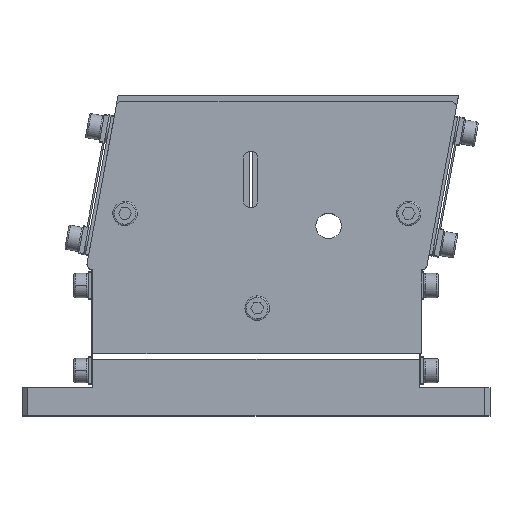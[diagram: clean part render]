
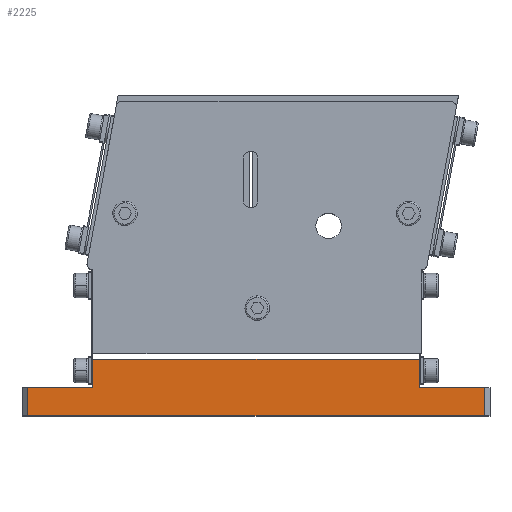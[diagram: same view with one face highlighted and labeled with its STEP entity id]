
A CAD part, top view. The second image highlights one B-rep face of the part: STEP entity #2225.
In plain terms, the highlighted planar face has unit normal (0, 0, 1).
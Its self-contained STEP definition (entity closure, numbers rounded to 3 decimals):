
#564 = DIRECTION ( 'NONE',  ( 0., 1., 0. ) ) ;
#878 = EDGE_CURVE ( 'NONE', #5041, #23762, #21860, .T. ) ;
#1312 = VERTEX_POINT ( 'NONE', #25003 ) ;
#1365 = CARTESIAN_POINT ( 'NONE',  ( -324.65, -35.022, 25. ) ) ;
#1494 = DIRECTION ( 'NONE',  ( 1., 0., 0. ) ) ;
#1765 = EDGE_LOOP ( 'NONE', ( #19718, #23989, #12242, #22808, #8204, #17586, #15658, #10326 ) ) ;
#2225 = ADVANCED_FACE ( 'NONE', ( #22007 ), #9357, .F. ) ;
#3305 = DIRECTION ( 'NONE',  ( 0., -1., 0. ) ) ;
#5041 = VERTEX_POINT ( 'NONE', #24200 ) ;
#5848 = CARTESIAN_POINT ( 'NONE',  ( -134.15, -45.022, 25. ) ) ;
#5916 = VECTOR ( 'NONE', #14800, 1000. ) ;
#7332 = LINE ( 'NONE', #26034, #18739 ) ;
#7593 = DIRECTION ( 'NONE',  ( 1., 0., 0. ) ) ;
#7621 = AXIS2_PLACEMENT_3D ( 'NONE', #17954, #15813, #3305 ) ;
#7688 = CARTESIAN_POINT ( 'NONE',  ( -295.15, -35.022, 25. ) ) ;
#8092 = VECTOR ( 'NONE', #564, 1000. ) ;
#8204 = ORIENTED_EDGE ( 'NONE', *, *, #17392, .F. ) ;
#8517 = CARTESIAN_POINT ( 'NONE',  ( -295.15, -45.022, 25. ) ) ;
#9357 = PLANE ( 'NONE',  #7621 ) ;
#9502 = VECTOR ( 'NONE', #11981, 1000. ) ;
#9565 = LINE ( 'NONE', #13870, #15043 ) ;
#9706 = LINE ( 'NONE', #1365, #12074 ) ;
#9722 = VERTEX_POINT ( 'NONE', #24077 ) ;
#9739 = DIRECTION ( 'NONE',  ( 1., 0., 0. ) ) ;
#9834 = LINE ( 'NONE', #7688, #9502 ) ;
#10326 = ORIENTED_EDGE ( 'NONE', *, *, #15734, .T. ) ;
#10360 = LINE ( 'NONE', #25164, #5916 ) ;
#10506 = CARTESIAN_POINT ( 'NONE',  ( -134.15, -35.022, 25. ) ) ;
#10774 = LINE ( 'NONE', #18982, #8092 ) ;
#11981 = DIRECTION ( 'NONE',  ( 0., 1., 0. ) ) ;
#12074 = VECTOR ( 'NONE', #21952, 1000. ) ;
#12242 = ORIENTED_EDGE ( 'NONE', *, *, #13202, .F. ) ;
#13202 = EDGE_CURVE ( 'NONE', #1312, #9722, #10360, .T. ) ;
#13870 = CARTESIAN_POINT ( 'NONE',  ( -294.65, -25.022, 25. ) ) ;
#14800 = DIRECTION ( 'NONE',  ( 0., -1., 0. ) ) ;
#14950 = LINE ( 'NONE', #10506, #22661 ) ;
#15043 = VECTOR ( 'NONE', #1494, 1000. ) ;
#15652 = CARTESIAN_POINT ( 'NONE',  ( -272.15, -35.022, 25. ) ) ;
#15658 = ORIENTED_EDGE ( 'NONE', *, *, #25234, .F. ) ;
#15734 = EDGE_CURVE ( 'NONE', #24149, #21221, #7332, .T. ) ;
#15813 = DIRECTION ( 'NONE',  ( 0., 0., -1. ) ) ;
#16345 = EDGE_CURVE ( 'NONE', #21221, #19655, #14950, .T. ) ;
#17392 = EDGE_CURVE ( 'NONE', #23762, #24080, #10774, .T. ) ;
#17586 = ORIENTED_EDGE ( 'NONE', *, *, #878, .F. ) ;
#17954 = CARTESIAN_POINT ( 'NONE',  ( -294.65, -35.022, 25. ) ) ;
#18205 = CARTESIAN_POINT ( 'NONE',  ( -289.65, -35.022, 25. ) ) ;
#18456 = VECTOR ( 'NONE', #9739, 1000. ) ;
#18739 = VECTOR ( 'NONE', #7593, 1000. ) ;
#18982 = CARTESIAN_POINT ( 'NONE',  ( -272.15, -23.022, 25. ) ) ;
#19655 = VERTEX_POINT ( 'NONE', #21618 ) ;
#19718 = ORIENTED_EDGE ( 'NONE', *, *, #16345, .T. ) ;
#21221 = VERTEX_POINT ( 'NONE', #5848 ) ;
#21618 = CARTESIAN_POINT ( 'NONE',  ( -134.15, -35.022, 25. ) ) ;
#21860 = LINE ( 'NONE', #18205, #18456 ) ;
#21952 = DIRECTION ( 'NONE',  ( 1., 0., 0. ) ) ;
#22007 = FACE_OUTER_BOUND ( 'NONE', #1765, .T. ) ;
#22661 = VECTOR ( 'NONE', #23024, 1000. ) ;
#22808 = ORIENTED_EDGE ( 'NONE', *, *, #24405, .F. ) ;
#23024 = DIRECTION ( 'NONE',  ( 0., 1., 0. ) ) ;
#23762 = VERTEX_POINT ( 'NONE', #15652 ) ;
#23989 = ORIENTED_EDGE ( 'NONE', *, *, #25445, .F. ) ;
#24077 = CARTESIAN_POINT ( 'NONE',  ( -157.15, -35.022, 25. ) ) ;
#24080 = VERTEX_POINT ( 'NONE', #24931 ) ;
#24149 = VERTEX_POINT ( 'NONE', #8517 ) ;
#24200 = CARTESIAN_POINT ( 'NONE',  ( -295.15, -35.022, 25. ) ) ;
#24405 = EDGE_CURVE ( 'NONE', #24080, #1312, #9565, .T. ) ;
#24931 = CARTESIAN_POINT ( 'NONE',  ( -272.15, -25.022, 25. ) ) ;
#25003 = CARTESIAN_POINT ( 'NONE',  ( -157.15, -25.022, 25. ) ) ;
#25164 = CARTESIAN_POINT ( 'NONE',  ( -157.15, -35.022, 25. ) ) ;
#25234 = EDGE_CURVE ( 'NONE', #24149, #5041, #9834, .T. ) ;
#25445 = EDGE_CURVE ( 'NONE', #9722, #19655, #9706, .T. ) ;
#26034 = CARTESIAN_POINT ( 'NONE',  ( -134.65, -45.022, 25. ) ) ;
